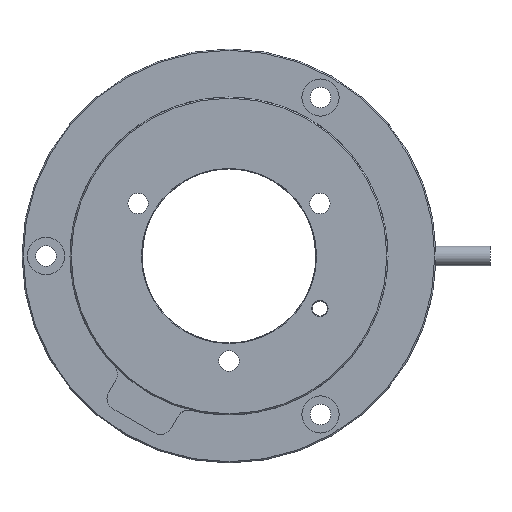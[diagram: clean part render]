
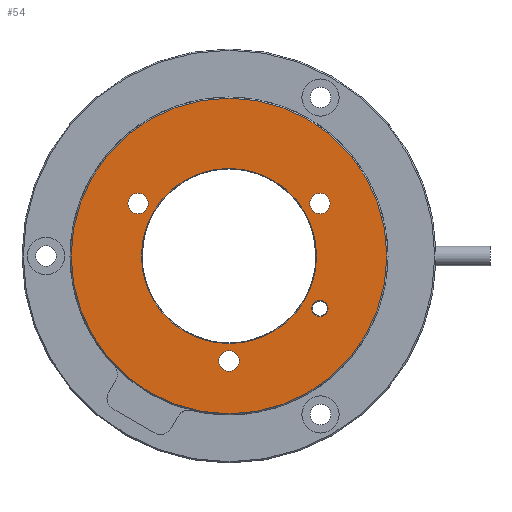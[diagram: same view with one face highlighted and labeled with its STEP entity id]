
A CAD part, front view. The second image highlights one B-rep face of the part: STEP entity #54.
In plain terms, the highlighted planar face has unit normal (0, -1, 0).
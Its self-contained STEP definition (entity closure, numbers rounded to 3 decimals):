
#54 = ADVANCED_FACE ( 'NONE', ( #4737, #7765, #7818, #1068, #6343, #7952 ), #6537, .F. ) ;
#276 = DIRECTION ( 'NONE',  ( 0., 1., 0. ) ) ;
#321 = ORIENTED_EDGE ( 'NONE', *, *, #2804, .T. ) ;
#359 = CIRCLE ( 'NONE', #1609, 1.7 ) ;
#497 = EDGE_CURVE ( 'NONE', #1363, #8292, #1508, .T. ) ;
#626 = CARTESIAN_POINT ( 'NONE',  ( -15.155, 0., 8.75 ) ) ;
#682 = EDGE_CURVE ( 'NONE', #5575, #6156, #7187, .T. ) ;
#833 = DIRECTION ( 'NONE',  ( 0., 1., 0. ) ) ;
#997 = AXIS2_PLACEMENT_3D ( 'NONE', #6373, #5566, #6325 ) ;
#1020 = CIRCLE ( 'NONE', #5109, 26.3 ) ;
#1068 = FACE_BOUND ( 'NONE', #7511, .T. ) ;
#1203 = DIRECTION ( 'NONE',  ( 0., 1., 0. ) ) ;
#1275 = ORIENTED_EDGE ( 'NONE', *, *, #682, .T. ) ;
#1363 = VERTEX_POINT ( 'NONE', #9381 ) ;
#1407 = VERTEX_POINT ( 'NONE', #3574 ) ;
#1415 = EDGE_CURVE ( 'NONE', #8296, #4921, #8371, .T. ) ;
#1479 = CARTESIAN_POINT ( 'NONE',  ( 15.155, 0., 8.75 ) ) ;
#1508 = CIRCLE ( 'NONE', #7819, 14.6 ) ;
#1609 = AXIS2_PLACEMENT_3D ( 'NONE', #626, #2138, #7919 ) ;
#2134 = EDGE_CURVE ( 'NONE', #8292, #1363, #5158, .T. ) ;
#2138 = DIRECTION ( 'NONE',  ( 0., 1., 0. ) ) ;
#2294 = CARTESIAN_POINT ( 'NONE',  ( 0., 0., 0. ) ) ;
#2411 = VERTEX_POINT ( 'NONE', #7333 ) ;
#2535 = ORIENTED_EDGE ( 'NONE', *, *, #5185, .T. ) ;
#2607 = CARTESIAN_POINT ( 'NONE',  ( 15.155, 0., -8.75 ) ) ;
#2627 = ORIENTED_EDGE ( 'NONE', *, *, #4144, .T. ) ;
#2650 = EDGE_CURVE ( 'NONE', #9209, #2920, #3824, .T. ) ;
#2689 = CARTESIAN_POINT ( 'NONE',  ( -15.155, 0., 7.05 ) ) ;
#2804 = EDGE_CURVE ( 'NONE', #4921, #8296, #9386, .T. ) ;
#2824 = DIRECTION ( 'NONE',  ( 0., 0., 1. ) ) ;
#2826 = DIRECTION ( 'NONE',  ( 0., 0., 1. ) ) ;
#2910 = ORIENTED_EDGE ( 'NONE', *, *, #2650, .T. ) ;
#2920 = VERTEX_POINT ( 'NONE', #2689 ) ;
#2983 = CARTESIAN_POINT ( 'NONE',  ( 15.155, 0., -10.1 ) ) ;
#3079 = AXIS2_PLACEMENT_3D ( 'NONE', #6649, #6012, #4406 ) ;
#3112 = DIRECTION ( 'NONE',  ( 0., 1., 0. ) ) ;
#3138 = ORIENTED_EDGE ( 'NONE', *, *, #2134, .T. ) ;
#3180 = CIRCLE ( 'NONE', #997, 1.7 ) ;
#3345 = DIRECTION ( 'NONE',  ( 0., 0., 1. ) ) ;
#3501 = CIRCLE ( 'NONE', #5890, 1.7 ) ;
#3525 = CARTESIAN_POINT ( 'NONE',  ( 15.155, 0., -8.75 ) ) ;
#3574 = CARTESIAN_POINT ( 'NONE',  ( 0., 0., 26.3 ) ) ;
#3791 = AXIS2_PLACEMENT_3D ( 'NONE', #1479, #4466, #2824 ) ;
#3802 = DIRECTION ( 'NONE',  ( 0., -1., 0. ) ) ;
#3824 = CIRCLE ( 'NONE', #4775, 1.7 ) ;
#4144 = EDGE_CURVE ( 'NONE', #6156, #5575, #5227, .T. ) ;
#4361 = DIRECTION ( 'NONE',  ( 0., 0., 1. ) ) ;
#4406 = DIRECTION ( 'NONE',  ( 0., 0., 1. ) ) ;
#4466 = DIRECTION ( 'NONE',  ( 0., 1., 0. ) ) ;
#4523 = VERTEX_POINT ( 'NONE', #8842 ) ;
#4528 = CARTESIAN_POINT ( 'NONE',  ( 15.155, 0., 10.45 ) ) ;
#4566 = CARTESIAN_POINT ( 'NONE',  ( 0., 0., 0. ) ) ;
#4716 = CARTESIAN_POINT ( 'NONE',  ( 15.155, 0., -7.4 ) ) ;
#4737 = FACE_BOUND ( 'NONE', #6378, .T. ) ;
#4774 = AXIS2_PLACEMENT_3D ( 'NONE', #7995, #1203, #3345 ) ;
#4775 = AXIS2_PLACEMENT_3D ( 'NONE', #8125, #5578, #4361 ) ;
#4921 = VERTEX_POINT ( 'NONE', #4716 ) ;
#5109 = AXIS2_PLACEMENT_3D ( 'NONE', #2294, #6167, #5407 ) ;
#5158 = CIRCLE ( 'NONE', #5461, 14.6 ) ;
#5185 = EDGE_CURVE ( 'NONE', #9352, #1407, #1020, .T. ) ;
#5227 = CIRCLE ( 'NONE', #3791, 1.7 ) ;
#5235 = CARTESIAN_POINT ( 'NONE',  ( 0., 0., -17.5 ) ) ;
#5321 = DIRECTION ( 'NONE',  ( 0., 0., 1. ) ) ;
#5378 = AXIS2_PLACEMENT_3D ( 'NONE', #3525, #5812, #2826 ) ;
#5407 = DIRECTION ( 'NONE',  ( 0., 0., 1. ) ) ;
#5461 = AXIS2_PLACEMENT_3D ( 'NONE', #7590, #833, #8354 ) ;
#5566 = DIRECTION ( 'NONE',  ( 0., 1., 0. ) ) ;
#5575 = VERTEX_POINT ( 'NONE', #8807 ) ;
#5578 = DIRECTION ( 'NONE',  ( 0., 1., 0. ) ) ;
#5748 = EDGE_CURVE ( 'NONE', #1407, #9352, #9093, .T. ) ;
#5812 = DIRECTION ( 'NONE',  ( 0., 1., 0. ) ) ;
#5890 = AXIS2_PLACEMENT_3D ( 'NONE', #5235, #3112, #5990 ) ;
#5990 = DIRECTION ( 'NONE',  ( 0., 0., 1. ) ) ;
#6012 = DIRECTION ( 'NONE',  ( 0., 1., 0. ) ) ;
#6108 = AXIS2_PLACEMENT_3D ( 'NONE', #7491, #3802, #6825 ) ;
#6156 = VERTEX_POINT ( 'NONE', #4528 ) ;
#6167 = DIRECTION ( 'NONE',  ( 0., -1., 0. ) ) ;
#6325 = DIRECTION ( 'NONE',  ( 0., 0., 1. ) ) ;
#6343 = FACE_BOUND ( 'NONE', #8220, .T. ) ;
#6356 = EDGE_LOOP ( 'NONE', ( #6572, #2535 ) ) ;
#6373 = CARTESIAN_POINT ( 'NONE',  ( 0., 0., -17.5 ) ) ;
#6378 = EDGE_LOOP ( 'NONE', ( #9542, #321 ) ) ;
#6537 = PLANE ( 'NONE',  #4774 ) ;
#6572 = ORIENTED_EDGE ( 'NONE', *, *, #5748, .T. ) ;
#6649 = CARTESIAN_POINT ( 'NONE',  ( 15.155, 0., 8.75 ) ) ;
#6825 = DIRECTION ( 'NONE',  ( 0., 0., 1. ) ) ;
#6854 = EDGE_LOOP ( 'NONE', ( #6935, #9430 ) ) ;
#6935 = ORIENTED_EDGE ( 'NONE', *, *, #7693, .T. ) ;
#6989 = ORIENTED_EDGE ( 'NONE', *, *, #497, .T. ) ;
#7077 = EDGE_CURVE ( 'NONE', #2920, #9209, #359, .T. ) ;
#7187 = CIRCLE ( 'NONE', #3079, 1.7 ) ;
#7237 = EDGE_CURVE ( 'NONE', #2411, #4523, #3180, .T. ) ;
#7333 = CARTESIAN_POINT ( 'NONE',  ( 0., 0., -19.2 ) ) ;
#7426 = EDGE_LOOP ( 'NONE', ( #3138, #6989 ) ) ;
#7491 = CARTESIAN_POINT ( 'NONE',  ( 0., 0., 0. ) ) ;
#7511 = EDGE_LOOP ( 'NONE', ( #2627, #1275 ) ) ;
#7590 = CARTESIAN_POINT ( 'NONE',  ( 0., 0., 0. ) ) ;
#7693 = EDGE_CURVE ( 'NONE', #4523, #2411, #3501, .T. ) ;
#7765 = FACE_BOUND ( 'NONE', #7426, .T. ) ;
#7780 = CARTESIAN_POINT ( 'NONE',  ( 0., 0., -26.3 ) ) ;
#7818 = FACE_OUTER_BOUND ( 'NONE', #6356, .T. ) ;
#7819 = AXIS2_PLACEMENT_3D ( 'NONE', #4566, #9177, #5321 ) ;
#7919 = DIRECTION ( 'NONE',  ( 0., 0., 1. ) ) ;
#7952 = FACE_BOUND ( 'NONE', #6854, .T. ) ;
#7995 = CARTESIAN_POINT ( 'NONE',  ( 0., 0., 0. ) ) ;
#8125 = CARTESIAN_POINT ( 'NONE',  ( -15.155, 0., 8.75 ) ) ;
#8209 = CARTESIAN_POINT ( 'NONE',  ( -15.155, 0., 10.45 ) ) ;
#8220 = EDGE_LOOP ( 'NONE', ( #2910, #9179 ) ) ;
#8292 = VERTEX_POINT ( 'NONE', #9022 ) ;
#8296 = VERTEX_POINT ( 'NONE', #2983 ) ;
#8354 = DIRECTION ( 'NONE',  ( 0., 0., 1. ) ) ;
#8371 = CIRCLE ( 'NONE', #5378, 1.35 ) ;
#8807 = CARTESIAN_POINT ( 'NONE',  ( 15.155, 0., 7.05 ) ) ;
#8842 = CARTESIAN_POINT ( 'NONE',  ( 0., 0., -15.8 ) ) ;
#9022 = CARTESIAN_POINT ( 'NONE',  ( 0., 0., -14.6 ) ) ;
#9093 = CIRCLE ( 'NONE', #6108, 26.3 ) ;
#9177 = DIRECTION ( 'NONE',  ( 0., 1., 0. ) ) ;
#9179 = ORIENTED_EDGE ( 'NONE', *, *, #7077, .T. ) ;
#9209 = VERTEX_POINT ( 'NONE', #8209 ) ;
#9224 = AXIS2_PLACEMENT_3D ( 'NONE', #2607, #276, #9389 ) ;
#9352 = VERTEX_POINT ( 'NONE', #7780 ) ;
#9381 = CARTESIAN_POINT ( 'NONE',  ( 0., 0., 14.6 ) ) ;
#9386 = CIRCLE ( 'NONE', #9224, 1.35 ) ;
#9389 = DIRECTION ( 'NONE',  ( 0., 0., 1. ) ) ;
#9430 = ORIENTED_EDGE ( 'NONE', *, *, #7237, .T. ) ;
#9542 = ORIENTED_EDGE ( 'NONE', *, *, #1415, .T. ) ;
